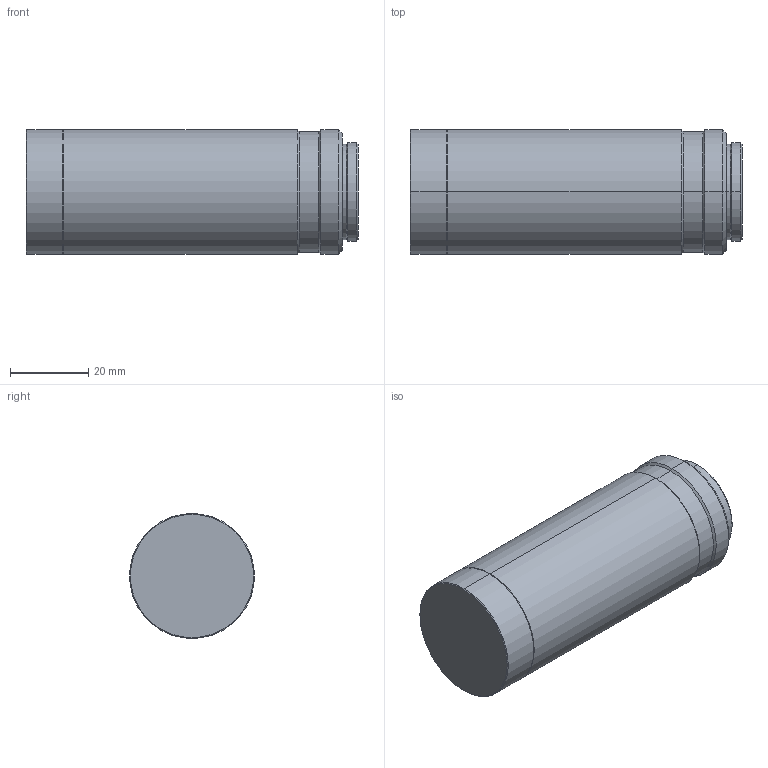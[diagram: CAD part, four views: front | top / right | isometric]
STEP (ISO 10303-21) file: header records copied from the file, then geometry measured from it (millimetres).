
FILE_DESCRIPTION (( 'STEP AP203' ), '1' );
FILE_NAME ('VS-TEC05.STEP', '2015-01-13T02:18:13', ( 'miura_vst' ), ( '' ), 'SwSTEP 2.0', 'SolidWorks 2014', '' );
FILE_SCHEMA (( 'CONFIG_CONTROL_DESIGN' ));
Length unit declared in the file: millimetre
Products named in the file (1): VS-TEC05
Bounding box: 85 x 32 x 32 mm (x, y, z)
Volume: 66786.1 mm3; surface area: 10051.5 mm2
Topology: 1 solids, 1 shells, 31 faces, 60 edges, 32 vertices
Faces by surface type: cone 16, cylinder 12, plane 3
Entity records: 851 total; most frequent: DIRECTION 156, CARTESIAN_POINT 124, ORIENTED_EDGE 120, AXIS2_PLACEMENT_3D 64, EDGE_CURVE 60, CIRCLE 32, VERTEX_POINT 32, EDGE_LOOP 32
